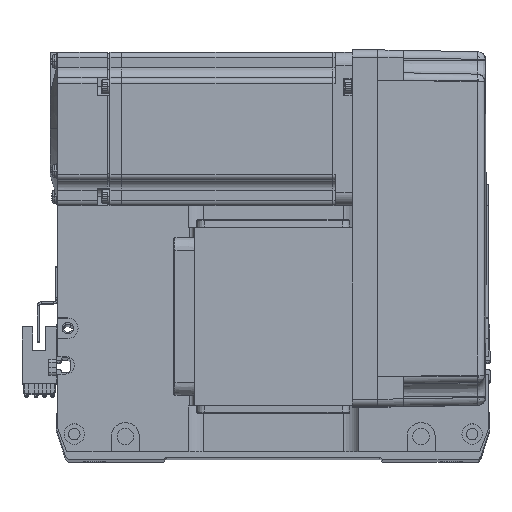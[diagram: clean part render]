
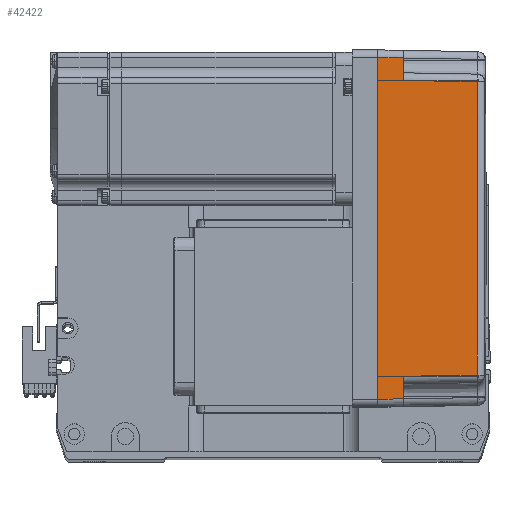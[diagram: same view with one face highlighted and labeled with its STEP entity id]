
A CAD part, top view. The second image highlights one B-rep face of the part: STEP entity #42422.
In plain terms, the highlighted planar face has unit normal (0.018, 0, 1) as drawn and (0, -1, 0.017) by its records, which use the part's own axes.
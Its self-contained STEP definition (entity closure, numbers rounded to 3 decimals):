
#2280 = VECTOR ( 'NONE', #26137, 1000. ) ;
#3467 = EDGE_CURVE ( 'NONE', #54582, #18541, #49419, .T. ) ;
#4082 = VECTOR ( 'NONE', #16428, 1000. ) ;
#4154 = CARTESIAN_POINT ( 'NONE',  ( 70., -35.825, 10. ) ) ;
#4212 = CARTESIAN_POINT ( 'NONE',  ( -57.495, -35.32, 38.985 ) ) ;
#4367 = DIRECTION ( 'NONE',  ( 0., -0.017, -1. ) ) ;
#4514 = AXIS2_PLACEMENT_3D ( 'NONE', #18455, #46449, #4367 ) ;
#4785 = DIRECTION ( 'NONE',  ( -1., 0., 0. ) ) ;
#4911 = B_SPLINE_CURVE_WITH_KNOTS ( 'NONE', 3,
 ( #42177, #23088, #56300, #4212 ),
 .UNSPECIFIED., .F., .F.,
 ( 4, 4 ),
 ( 0., 1. ),
 .UNSPECIFIED. ) ;
#5551 = VERTEX_POINT ( 'NONE', #39383 ) ;
#5784 = CARTESIAN_POINT ( 'NONE',  ( -66.826, -35.825, 10. ) ) ;
#6802 = VERTEX_POINT ( 'NONE', #24360 ) ;
#8264 = CARTESIAN_POINT ( 'NONE',  ( -66.959, -35.958, 2.39 ) ) ;
#11162 = ORIENTED_EDGE ( 'NONE', *, *, #3467, .T. ) ;
#12105 = EDGE_CURVE ( 'NONE', #47913, #5551, #44894, .T. ) ;
#12685 = ORIENTED_EDGE ( 'NONE', *, *, #49174, .T. ) ;
#14883 = LINE ( 'NONE', #57678, #2280 ) ;
#15352 = ORIENTED_EDGE ( 'NONE', *, *, #12105, .T. ) ;
#15424 = ORIENTED_EDGE ( 'NONE', *, *, #38778, .F. ) ;
#16428 = DIRECTION ( 'NONE',  ( -0.017, -0.017, -1. ) ) ;
#17087 = VECTOR ( 'NONE', #29994, 1000. ) ;
#17183 = CARTESIAN_POINT ( 'NONE',  ( 67., -36., 0. ) ) ;
#18254 = PLANE ( 'NONE',  #4514 ) ;
#18455 = CARTESIAN_POINT ( 'NONE',  ( 70., -36., 0. ) ) ;
#18541 = VERTEX_POINT ( 'NONE', #41224 ) ;
#18569 = EDGE_CURVE ( 'NONE', #6802, #26756, #41868, .T. ) ;
#21578 = EDGE_CURVE ( 'NONE', #18541, #27634, #52382, .T. ) ;
#23088 = CARTESIAN_POINT ( 'NONE',  ( 19.165, -35.316, 39.181 ) ) ;
#23467 = EDGE_CURVE ( 'NONE', #34307, #47913, #4911, .T. ) ;
#24360 = CARTESIAN_POINT ( 'NONE',  ( -67., -36., 0. ) ) ;
#26137 = DIRECTION ( 'NONE',  ( -1., 0., 0. ) ) ;
#26459 = VECTOR ( 'NONE', #27184, 1000. ) ;
#26756 = VERTEX_POINT ( 'NONE', #5784 ) ;
#27184 = DIRECTION ( 'NONE',  ( -0.017, 0.017, 1. ) ) ;
#27634 = VERTEX_POINT ( 'NONE', #36217 ) ;
#28677 = EDGE_CURVE ( 'NONE', #5551, #26756, #46050, .T. ) ;
#29769 = EDGE_LOOP ( 'NONE', ( #11162, #37828, #12685, #60595, #15352, #52768, #45556, #15424 ) ) ;
#29994 = DIRECTION ( 'NONE',  ( -1., 0., 0. ) ) ;
#30828 = VECTOR ( 'NONE', #4785, 1000. ) ;
#34307 = VERTEX_POINT ( 'NONE', #50925 ) ;
#35131 = CARTESIAN_POINT ( 'NONE',  ( -57.495, -35.32, 38.985 ) ) ;
#36217 = CARTESIAN_POINT ( 'NONE',  ( 58., -35.825, 10. ) ) ;
#37828 = ORIENTED_EDGE ( 'NONE', *, *, #21578, .T. ) ;
#38778 = EDGE_CURVE ( 'NONE', #54582, #6802, #14883, .T. ) ;
#39383 = CARTESIAN_POINT ( 'NONE',  ( -58., -35.825, 10. ) ) ;
#41142 = VECTOR ( 'NONE', #60723, 1000. ) ;
#41224 = CARTESIAN_POINT ( 'NONE',  ( 66.826, -35.825, 10. ) ) ;
#41868 = LINE ( 'NONE', #8264, #41142 ) ;
#42177 = CARTESIAN_POINT ( 'NONE',  ( 57.495, -35.32, 38.985 ) ) ;
#42422 = ADVANCED_FACE ( 'NONE', ( #61326 ), #18254, .T. ) ;
#44894 = LINE ( 'NONE', #35131, #4082 ) ;
#45015 = DIRECTION ( 'NONE',  ( -0.017, 0.017, 1. ) ) ;
#45556 = ORIENTED_EDGE ( 'NONE', *, *, #18569, .F. ) ;
#46050 = LINE ( 'NONE', #58391, #17087 ) ;
#46449 = DIRECTION ( 'NONE',  ( 0., -1., 0.017 ) ) ;
#47913 = VERTEX_POINT ( 'NONE', #50035 ) ;
#49099 = VECTOR ( 'NONE', #45015, 1000. ) ;
#49174 = EDGE_CURVE ( 'NONE', #27634, #34307, #59532, .T. ) ;
#49419 = LINE ( 'NONE', #17183, #26459 ) ;
#50035 = CARTESIAN_POINT ( 'NONE',  ( -57.495, -35.32, 38.985 ) ) ;
#50925 = CARTESIAN_POINT ( 'NONE',  ( 57.495, -35.32, 38.985 ) ) ;
#52382 = LINE ( 'NONE', #4154, #30828 ) ;
#52768 = ORIENTED_EDGE ( 'NONE', *, *, #28677, .T. ) ;
#54582 = VERTEX_POINT ( 'NONE', #56232 ) ;
#56232 = CARTESIAN_POINT ( 'NONE',  ( 67., -36., 0. ) ) ;
#56300 = CARTESIAN_POINT ( 'NONE',  ( -19.165, -35.316, 39.181 ) ) ;
#57678 = CARTESIAN_POINT ( 'NONE',  ( 0., -36., 0. ) ) ;
#58391 = CARTESIAN_POINT ( 'NONE',  ( 70., -35.825, 10. ) ) ;
#58546 = CARTESIAN_POINT ( 'NONE',  ( 58., -35.825, 10. ) ) ;
#59532 = LINE ( 'NONE', #58546, #49099 ) ;
#60595 = ORIENTED_EDGE ( 'NONE', *, *, #23467, .T. ) ;
#60723 = DIRECTION ( 'NONE',  ( 0.017, 0.017, 1. ) ) ;
#61326 = FACE_OUTER_BOUND ( 'NONE', #29769, .T. ) ;
